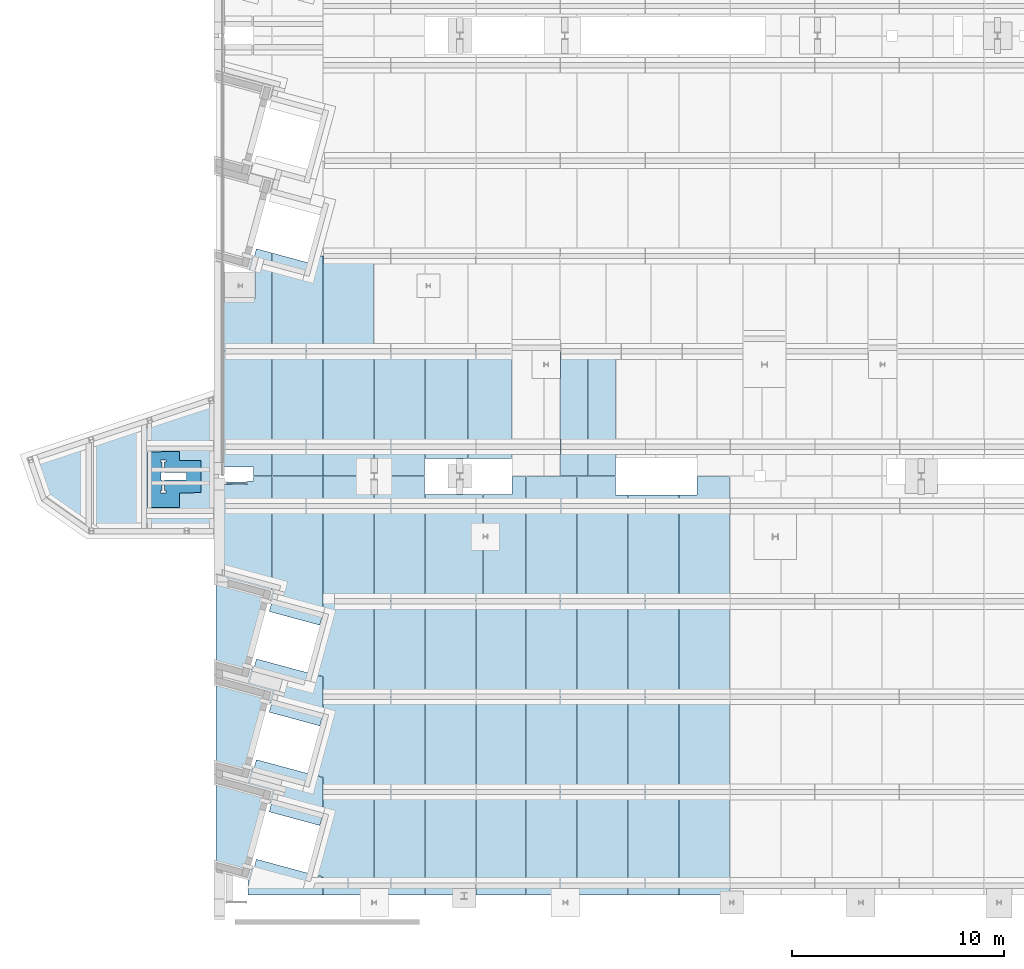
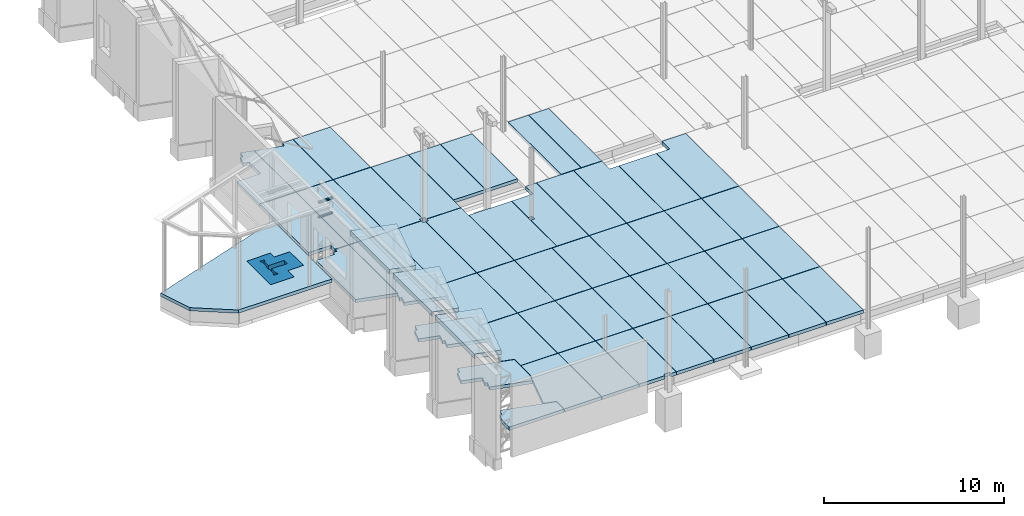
# One storey, part 46 of 59: 53 slabs, 2 beams.
"""IFC2X3 building model written with IfcOpenShell, lengths in metres."""

from ifc_helpers import new_model, entity, si_unit, converted_unit, derived_unit, frame, frame_2d, origin, origin_with_axes, place, context, subcontext, project, spatial, polyline, rectangle, outline, extrude, material, element, save


model = new_model("IFC2X3")

# Units and contexts
model_context = context("Model", 3, precision=1e-05, world=origin())
body_context = subcontext(model_context, "Body", "Model", "MODEL_VIEW")
ifc_project = project(units=[si_unit("LENGTHUNIT", "METRE"), si_unit("AREAUNIT", "SQUARE_METRE"), si_unit("VOLUMEUNIT", "CUBIC_METRE"), si_unit("MASSUNIT", "GRAM", prefix="KILO"), converted_unit("PLANEANGLEUNIT", "DEGREE", entity("IfcPlaneAngleMeasure", 0.0174532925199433), si_unit("PLANEANGLEUNIT", "RADIAN"), dimensions=[0, 0, 0, 0, 0, 0, 0]), derived_unit("THERMALTRANSMITTANCEUNIT", [(si_unit("POWERUNIT", "WATT"), 1), (si_unit("THERMODYNAMICTEMPERATUREUNIT", "KELVIN"), -1), (si_unit("LENGTHUNIT", "METRE"), -2)]), derived_unit("VOLUMETRICFLOWRATEUNIT", [(si_unit("LENGTHUNIT", "METRE"), 3), (converted_unit("TIMEUNIT", "hour", entity("IfcTimeMeasure", 3600.0), si_unit("TIMEUNIT", "SECOND"), dimensions=[0, 0, 1, 0, 0, 0, 0]), -1), (si_unit("LENGTHUNIT", "METRE"), -1)])], contexts=[model_context])

# Site, building, storey
site_placement = place(None, origin())
site = spatial("IfcSite", under=ifc_project, at=site_placement, Name="TWP_Speiseverteilzentrum SBW VZ II", CompositionType="ELEMENT")
building_placement = place(site_placement, origin())
building = spatial("IfcBuilding", under=site, at=building_placement, Name="Speiseverteilzentrum SBW VZ II", CompositionType="ELEMENT")
storey_placement = place(building_placement, frame((0.0, 0.0, 1.7307)))
storey = spatial("IfcBuildingStorey", under=building, at=storey_placement, Name="EG_Produktion_FFB", CompositionType="ELEMENT", Elevation=1.7307)

# Beams
ifc_material_1 = material(Name="S235")
beam_1_placement = place(storey_placement, frame((9.85000000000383, 30.4850010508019, 2.56), z_axis=(0.0, 0.0, 1.0), x_axis=(0.0, -1.0, 0.0)))
element("IfcBeam", 1, at=beam_1_placement, inside=storey, material=ifc_material_1, Name="Fachwerkstütze", context=body_context, shape_type="SweptSolid", body=[
    extrude(outline(polyline([(-0.05, 0.048), (-0.05, 0.04), (-0.0025, 0.04), (-0.00250000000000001, -0.0399999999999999), (-0.05, -0.0399999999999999), (-0.05, -0.048), (0.05, -0.048), (0.05, -0.0399999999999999), (0.00249999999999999, -0.0399999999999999), (0.0025, 0.04), (0.05, 0.04), (0.05, 0.048), (-0.05, 0.048)])), frame((0.0, 0.0, 0.0), z_axis=(0.0, 1.0, 0.0), x_axis=(-1.0, 0.0, 0.0)), (0.0, 0.0, 1.0), 0.9),
])
ifc_material_2 = material(Name="S235")
beam_2_placement = place(storey_placement, frame((9.85000000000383, 30.4850010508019, 3.56), z_axis=(0.0, 0.0, 1.0), x_axis=(0.0, -1.0, 0.0)))
element("IfcBeam", 2, at=beam_2_placement, inside=storey, material=ifc_material_2, Name="Fachwerkstütze", context=body_context, shape_type="SweptSolid", body=[
    extrude(outline(polyline([(-0.05, 0.048), (-0.05, 0.04), (-0.0025, 0.04), (-0.00250000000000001, -0.0399999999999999), (-0.05, -0.0399999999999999), (-0.05, -0.048), (0.05, -0.048), (0.05, -0.0399999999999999), (0.00249999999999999, -0.0399999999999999), (0.0025, 0.04), (0.05, 0.04), (0.05, 0.048), (-0.05, 0.048)])), frame((0.0, 0.0, 0.0), z_axis=(0.0, 1.0, 0.0), x_axis=(-1.0, 0.0, 0.0)), (0.0, 0.0, 1.0), 0.9),
])

# Slabs
ifc_material_3 = material(Name="Stahlbeton")
slab_1_placement = place(storey_placement, frame((9.33999999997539, 11.8686142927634, 4.2)))
element("IfcSlab", 3, at=slab_1_placement, inside=storey, material=ifc_material_3, Name="Stb.-Rahmen", PredefinedType="ROOF", context=body_context, shape_type="SweptSolid", body=[
    extrude(outline(polyline([(0.0, 4.75349654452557), (0.0, 0.403404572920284), (1.49195659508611, 0.0), (2.58802923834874, 4.05372898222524), (0.0, 4.75349654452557)])), origin_with_axes(), (0.0, 0.0, 1.0), 0.3),
])
ifc_material_4 = material(Name="Stahlbeton")
slab_2_placement = place(storey_placement, frame((9.33999999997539, 16.5711783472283, 4.2)))
element("IfcSlab", 4, at=slab_2_placement, inside=storey, material=ifc_material_4, Name="Stb.-Rahmen", PredefinedType="ROOF", context=body_context, shape_type="SweptSolid", body=[
    extrude(outline(polyline([(0.0, 4.75349654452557), (0.0, 0.403404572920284), (1.49195659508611, 0.0), (2.58802923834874, 4.05372898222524), (0.0, 4.75349654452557)])), origin_with_axes(), (0.0, 0.0, 1.0), 0.3),
])
ifc_material_5 = material(Name="Stahlbeton")
slab_3_placement = place(storey_placement, frame((9.33999999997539, 21.3227129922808, 4.2)))
element("IfcSlab", 5, at=slab_3_placement, inside=storey, material=ifc_material_5, Name="Stb.-Rahmen", PredefinedType="ROOF", context=body_context, shape_type="SweptSolid", body=[
    extrude(outline(polyline([(0.0, 4.75349654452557), (0.0, 0.403404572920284), (1.49195659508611, 0.0), (2.58802923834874, 4.05372898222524), (0.0, 4.75349654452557)])), origin_with_axes(), (0.0, 0.0, 1.0), 0.3),
])
ifc_material_6 = material(Name="Stahlbetonfertigteil")
slab_4_placement = place(storey_placement, frame((16.7999999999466, 15.9100000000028, -0.47)))
element("IfcSlab", 6, at=slab_4_placement, inside=storey, material=ifc_material_6, Name="Stahlbetonfertigteilplatte", PredefinedType="BASESLAB", context=body_context, shape_type="SweptSolid", body=[
    extrude(rectangle(XDim=4.47999999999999, YDim=2.38, at=frame_2d((1.19, -2.23999999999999), x_axis=(0.0, -1.0))), frame((0.0, 4.47999999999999, 0.0), z_axis=(0.0, 0.0, 1.0), x_axis=(1.0, 0.0, 0.0)), (0.0, 0.0, 1.0), 0.22),
])
ifc_material_7 = material(Name="Stahlbetonfertigteil")
slab_5_placement = place(storey_placement, frame((16.7999999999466, 20.4100000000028, -0.47)))
element("IfcSlab", 7, at=slab_5_placement, inside=storey, material=ifc_material_7, Name="Stahlbetonfertigteilplatte", PredefinedType="BASESLAB", context=body_context, shape_type="SweptSolid", body=[
    extrude(rectangle(XDim=4.47999999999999, YDim=2.38, at=frame_2d((1.19, -2.23999999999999), x_axis=(0.0, -1.0))), frame((0.0, 4.47999999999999, 0.0), z_axis=(0.0, 0.0, 1.0), x_axis=(1.0, 0.0, 0.0)), (0.0, 0.0, 1.0), 0.22),
])
ifc_material_8 = material(Name="Stahlbetonfertigteil")
slab_6_placement = place(storey_placement, frame((19.1999999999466, 15.9100000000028, -0.47)))
element("IfcSlab", 8, at=slab_6_placement, inside=storey, material=ifc_material_8, Name="Stahlbetonfertigteilplatte", PredefinedType="BASESLAB", context=body_context, shape_type="SweptSolid", body=[
    extrude(rectangle(XDim=4.47999999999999, YDim=2.38, at=frame_2d((1.19, -2.23999999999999), x_axis=(0.0, -1.0))), frame((0.0, 4.47999999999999, 0.0), z_axis=(0.0, 0.0, 1.0), x_axis=(1.0, 0.0, 0.0)), (0.0, 0.0, 1.0), 0.22),
])
ifc_material_9 = material(Name="Stahlbetonfertigteil")
slab_7_placement = place(storey_placement, frame((21.5999999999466, 15.9100000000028, -0.47)))
element("IfcSlab", 9, at=slab_7_placement, inside=storey, material=ifc_material_9, Name="Stahlbetonfertigteilplatte", PredefinedType="BASESLAB", context=body_context, shape_type="SweptSolid", body=[
    extrude(rectangle(XDim=4.47999999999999, YDim=2.38, at=frame_2d((1.19, -2.23999999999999), x_axis=(0.0, -1.0))), frame((0.0, 4.47999999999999, 0.0), z_axis=(0.0, 0.0, 1.0), x_axis=(1.0, 0.0, 0.0)), (0.0, 0.0, 1.0), 0.22),
])
ifc_material_10 = material(Name="Stahlbetonfertigteil")
slab_8_placement = place(storey_placement, frame((19.1999999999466, 20.4100000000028, -0.47)))
element("IfcSlab", 10, at=slab_8_placement, inside=storey, material=ifc_material_10, Name="Stahlbetonfertigteilplatte", PredefinedType="BASESLAB", context=body_context, shape_type="SweptSolid", body=[
    extrude(rectangle(XDim=4.47999999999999, YDim=2.38, at=frame_2d((1.19, -2.23999999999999), x_axis=(0.0, -1.0))), frame((0.0, 4.47999999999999, 0.0), z_axis=(0.0, 0.0, 1.0), x_axis=(1.0, 0.0, 0.0)), (0.0, 0.0, 1.0), 0.22),
])
ifc_material_11 = material(Name="Stahlbetonfertigteil")
slab_9_placement = place(storey_placement, frame((21.5999999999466, 20.4100000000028, -0.47)))
element("IfcSlab", 11, at=slab_9_placement, inside=storey, material=ifc_material_11, Name="Stahlbetonfertigteilplatte", PredefinedType="BASESLAB", context=body_context, shape_type="SweptSolid", body=[
    extrude(rectangle(XDim=4.47999999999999, YDim=2.38, at=frame_2d((1.19, -2.23999999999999), x_axis=(0.0, -1.0))), frame((0.0, 4.47999999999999, 0.0), z_axis=(0.0, 0.0, 1.0), x_axis=(1.0, 0.0, 0.0)), (0.0, 0.0, 1.0), 0.22),
])
ifc_material_12 = material(Name="Stahlbetonfertigteil")
slab_10_placement = place(storey_placement, frame((23.9999999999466, 15.9100000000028, -0.47)))
element("IfcSlab", 12, at=slab_10_placement, inside=storey, material=ifc_material_12, Name="Stahlbetonfertigteilplatte", PredefinedType="BASESLAB", context=body_context, shape_type="SweptSolid", body=[
    extrude(rectangle(XDim=4.47999999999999, YDim=2.38, at=frame_2d((1.19, -2.23999999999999), x_axis=(0.0, -1.0))), frame((0.0, 4.47999999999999, 0.0), z_axis=(0.0, 0.0, 1.0), x_axis=(1.0, 0.0, 0.0)), (0.0, 0.0, 1.0), 0.22),
])
ifc_material_13 = material(Name="Stahlbetonfertigteil")
slab_11_placement = place(storey_placement, frame((26.3999999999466, 15.9100000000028, -0.47)))
element("IfcSlab", 13, at=slab_11_placement, inside=storey, material=ifc_material_13, Name="Stahlbetonfertigteilplatte", PredefinedType="BASESLAB", context=body_context, shape_type="SweptSolid", body=[
    extrude(rectangle(XDim=4.47999999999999, YDim=2.38, at=frame_2d((1.19, -2.23999999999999), x_axis=(0.0, -1.0))), frame((0.0, 4.47999999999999, 0.0), z_axis=(0.0, 0.0, 1.0), x_axis=(1.0, 0.0, 0.0)), (0.0, 0.0, 1.0), 0.22),
])
ifc_material_14 = material(Name="Stahlbetonfertigteil")
slab_12_placement = place(storey_placement, frame((23.9999999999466, 20.4100000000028, -0.47)))
element("IfcSlab", 14, at=slab_12_placement, inside=storey, material=ifc_material_14, Name="Stahlbetonfertigteilplatte", PredefinedType="BASESLAB", context=body_context, shape_type="SweptSolid", body=[
    extrude(rectangle(XDim=4.47999999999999, YDim=2.38, at=frame_2d((1.19, -2.23999999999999), x_axis=(0.0, -1.0))), frame((0.0, 4.47999999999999, 0.0), z_axis=(0.0, 0.0, 1.0), x_axis=(1.0, 0.0, 0.0)), (0.0, 0.0, 1.0), 0.22),
])
ifc_material_15 = material(Name="Stahlbetonfertigteil")
slab_13_placement = place(storey_placement, frame((26.3999999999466, 20.4100000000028, -0.47)))
element("IfcSlab", 15, at=slab_13_placement, inside=storey, material=ifc_material_15, Name="Stahlbetonfertigteilplatte", PredefinedType="BASESLAB", context=body_context, shape_type="SweptSolid", body=[
    extrude(rectangle(XDim=4.47999999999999, YDim=2.38, at=frame_2d((1.19, -2.23999999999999), x_axis=(0.0, -1.0))), frame((0.0, 4.47999999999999, 0.0), z_axis=(0.0, 0.0, 1.0), x_axis=(1.0, 0.0, 0.0)), (0.0, 0.0, 1.0), 0.22),
])
ifc_material_16 = material(Name="Stahlbetonfertigteil")
slab_14_placement = place(storey_placement, frame((28.7999999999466, 15.9100000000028, -0.47)))
element("IfcSlab", 16, at=slab_14_placement, inside=storey, material=ifc_material_16, Name="Stahlbetonfertigteilplatte", PredefinedType="BASESLAB", context=body_context, shape_type="SweptSolid", body=[
    extrude(rectangle(XDim=4.47999999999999, YDim=2.38, at=frame_2d((1.19, -2.23999999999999), x_axis=(0.0, -1.0))), frame((0.0, 4.47999999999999, 0.0), z_axis=(0.0, 0.0, 1.0), x_axis=(1.0, 0.0, 0.0)), (0.0, 0.0, 1.0), 0.22),
])
ifc_material_17 = material(Name="Stahlbetonfertigteil")
slab_15_placement = place(storey_placement, frame((31.1999999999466, 15.9100000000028, -0.47)))
element("IfcSlab", 17, at=slab_15_placement, inside=storey, material=ifc_material_17, Name="Stahlbetonfertigteilplatte", PredefinedType="BASESLAB", context=body_context, shape_type="SweptSolid", body=[
    extrude(rectangle(XDim=4.47999999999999, YDim=2.38, at=frame_2d((1.19, -2.23999999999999), x_axis=(0.0, -1.0))), frame((0.0, 4.47999999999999, 0.0), z_axis=(0.0, 0.0, 1.0), x_axis=(1.0, 0.0, 0.0)), (0.0, 0.0, 1.0), 0.22),
])
ifc_material_18 = material(Name="Stahlbetonfertigteil")
slab_16_placement = place(storey_placement, frame((28.7999999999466, 20.4100000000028, -0.47)))
element("IfcSlab", 18, at=slab_16_placement, inside=storey, material=ifc_material_18, Name="Stahlbetonfertigteilplatte", PredefinedType="BASESLAB", context=body_context, shape_type="SweptSolid", body=[
    extrude(rectangle(XDim=4.47999999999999, YDim=2.38, at=frame_2d((1.19, -2.23999999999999), x_axis=(0.0, -1.0))), frame((0.0, 4.47999999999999, 0.0), z_axis=(0.0, 0.0, 1.0), x_axis=(1.0, 0.0, 0.0)), (0.0, 0.0, 1.0), 0.22),
])
ifc_material_19 = material(Name="Stahlbetonfertigteil")
slab_17_placement = place(storey_placement, frame((31.1999999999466, 20.4100000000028, -0.47)))
element("IfcSlab", 19, at=slab_17_placement, inside=storey, material=ifc_material_19, Name="Stahlbetonfertigteilplatte", PredefinedType="BASESLAB", context=body_context, shape_type="SweptSolid", body=[
    extrude(rectangle(XDim=4.47999999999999, YDim=2.38, at=frame_2d((1.19, -2.23999999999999), x_axis=(0.0, -1.0))), frame((0.0, 4.47999999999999, 0.0), z_axis=(0.0, 0.0, 1.0), x_axis=(1.0, 0.0, 0.0)), (0.0, 0.0, 1.0), 0.22),
])
ifc_material_20 = material(Name="Stahlbetonfertigteil")
slab_18_placement = place(storey_placement, frame((14.3999999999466, 36.7100000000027, -0.47)))
element("IfcSlab", 20, at=slab_18_placement, inside=storey, material=ifc_material_20, Name="Stahlbetonfertigteilplatte", PredefinedType="BASESLAB", context=body_context, shape_type="SweptSolid", body=[
    extrude(rectangle(XDim=4.47999999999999, YDim=2.38, at=frame_2d((1.19, -2.23999999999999), x_axis=(0.0, -1.0))), frame((0.0, 4.47999999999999, 0.0), z_axis=(0.0, 0.0, 1.0), x_axis=(1.0, 0.0, 0.0)), (0.0, 0.0, 1.0), 0.22),
])
ifc_material_21 = material(Name="Stahlbetonfertigteil")
slab_19_placement = place(storey_placement, frame((11.9999999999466, 36.7100000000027, -0.47)))
element("IfcSlab", 21, at=slab_19_placement, inside=storey, material=ifc_material_21, Name="Stahlbetonfertigteilplatte", PredefinedType="BASESLAB", context=body_context, shape_type="SweptSolid", body=[
    extrude(outline(polyline([(2.38, 4.47999999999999), (1.73572350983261, 4.47999999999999), (1.65475410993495, 4.18054174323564), (0.0, 4.62796452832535), (0.0, 0.0), (2.38, 0.0), (2.38, 4.47999999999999)])), origin_with_axes(), (0.0, 0.0, 1.0), 0.22),
])
ifc_material_22 = material(Name="Stahlbetonfertigteil")
slab_20_placement = place(storey_placement, frame((16.7999999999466, 24.9100000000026, -0.47)))
element("IfcSlab", 22, at=slab_20_placement, inside=storey, material=ifc_material_22, Name="Stahlbetonfertigteilplatte", PredefinedType="BASESLAB", context=body_context, shape_type="SweptSolid", body=[
    extrude(outline(polyline([(0.182375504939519, 5.7051031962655), (0.0, 5.7051031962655), (0.0, 0.0), (2.38, 0.0), (2.38, 5.87999999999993), (0.182375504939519, 5.87999999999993), (0.182375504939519, 5.7051031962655)])), origin_with_axes(), (0.0, 0.0, 1.0), 0.22),
])
ifc_material_23 = material(Name="Stahlbetonfertigteil")
slab_21_placement = place(storey_placement, frame((16.7999999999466, 30.8100000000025, -0.47)))
element("IfcSlab", 23, at=slab_21_placement, inside=storey, material=ifc_material_23, Name="Stahlbetonfertigteilplatte", PredefinedType="BASESLAB", context=body_context, shape_type="SweptSolid", body=[
    extrude(outline(polyline([(2.38, 0.0), (2.38, 5.87999999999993), (0.0, 5.87999999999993), (0.0, 0.175103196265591), (0.182375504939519, 0.175103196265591), (0.182375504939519, 0.0), (2.38, 0.0)])), origin_with_axes(), (0.0, 0.0, 1.0), 0.22),
])
ifc_material_24 = material(Name="Stahlbetonfertigteil")
slab_22_placement = place(storey_placement, frame((14.3999999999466, 30.8100000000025, -0.47)))
element("IfcSlab", 24, at=slab_22_placement, inside=storey, material=ifc_material_24, Name="Stahlbetonfertigteilplatte", PredefinedType="BASESLAB", context=body_context, shape_type="SweptSolid", body=[
    extrude(outline(polyline([(2.38, 0.175103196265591), (2.38, 5.87999999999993), (0.0, 5.87999999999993), (0.0, 0.0), (2.22237550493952, 0.0), (2.22237550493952, 0.175103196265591), (2.38, 0.175103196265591)])), origin_with_axes(), (0.0, 0.0, 1.0), 0.22),
])
ifc_material_25 = material(Name="Stahlbetonfertigteil")
slab_23_placement = place(storey_placement, frame((11.9999999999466, 30.8100000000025, -0.47)))
element("IfcSlab", 25, at=slab_23_placement, inside=storey, material=ifc_material_25, Name="Stahlbetonfertigteilplatte", PredefinedType="BASESLAB", context=body_context, shape_type="SweptSolid", body=[
    extrude(rectangle(XDim=5.87999999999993, YDim=2.38, at=frame_2d((1.19, -2.93999999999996), x_axis=(0.0, -1.0))), frame((0.0, 5.87999999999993, 0.0), z_axis=(0.0, 0.0, 1.0), x_axis=(1.0, 0.0, 0.0)), (0.0, 0.0, 1.0), 0.22),
])
ifc_material_26 = material(Name="Stahlbetonfertigteil")
slab_24_placement = place(storey_placement, frame((31.1999999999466, 24.9100000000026, -0.47)))
element("IfcSlab", 26, at=slab_24_placement, inside=storey, material=ifc_material_26, Name="Stahlbetonfertigteilplatte", PredefinedType="BASESLAB", context=body_context, shape_type="SweptSolid", body=[
    extrude(outline(polyline([(0.0, 5.0172526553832), (0.0, 0.0), (2.38, 0.0), (2.38, 5.87999999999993), (0.850000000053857, 5.87999999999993), (0.850000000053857, 5.0172526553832), (0.0, 5.0172526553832)])), origin_with_axes(), (0.0, 0.0, 1.0), 0.22),
])
ifc_material_27 = material(Name="Stahlbetonfertigteil")
slab_25_placement = place(storey_placement, frame((28.7999999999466, 24.9100000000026, -0.47)))
element("IfcSlab", 27, at=slab_25_placement, inside=storey, material=ifc_material_27, Name="Stahlbetonfertigteilplatte", PredefinedType="BASESLAB", context=body_context, shape_type="SweptSolid", body=[
    extrude(rectangle(XDim=2.38, YDim=5.0172526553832, at=frame_2d((-1.19, -2.5086263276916), x_axis=(-1.0, 0.0))), frame((2.38, 5.0172526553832, 0.0), z_axis=(0.0, 0.0, 1.0), x_axis=(1.0, 0.0, 0.0)), (0.0, 0.0, 1.0), 0.22),
])
ifc_material_28 = material(Name="Stahlbetonfertigteil")
slab_26_placement = place(storey_placement, frame((26.3999999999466, 24.9100000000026, -0.47)))
element("IfcSlab", 28, at=slab_26_placement, inside=storey, material=ifc_material_28, Name="Stahlbetonfertigteilplatte", PredefinedType="BASESLAB", context=body_context, shape_type="SweptSolid", body=[
    extrude(outline(polyline([(2.38, 0.0), (2.38, 5.01725265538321), (1.8000000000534, 5.01725265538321), (1.8000000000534, 5.87999999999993), (0.0, 5.87999999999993), (0.0, 0.0), (2.38, 0.0)])), origin_with_axes(), (0.0, 0.0, 1.0), 0.22),
])
ifc_material_29 = material(Name="Stahlbetonfertigteil")
slab_27_placement = place(storey_placement, frame((23.9999999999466, 24.9100000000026, -0.47)))
element("IfcSlab", 29, at=slab_27_placement, inside=storey, material=ifc_material_29, Name="Stahlbetonfertigteilplatte", PredefinedType="BASESLAB", context=body_context, shape_type="SweptSolid", body=[
    extrude(rectangle(XDim=5.87999999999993, YDim=2.38, at=frame_2d((1.19, -2.93999999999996), x_axis=(0.0, -1.0))), frame((0.0, 5.87999999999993, 0.0), z_axis=(0.0, 0.0, 1.0), x_axis=(1.0, 0.0, 0.0)), (0.0, 0.0, 1.0), 0.22),
])
ifc_material_30 = material(Name="Stahlbetonfertigteil")
slab_28_placement = place(storey_placement, frame((31.1999999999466, 11.0500000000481, -0.47)))
element("IfcSlab", 30, at=slab_28_placement, inside=storey, material=ifc_material_30, Name="Stahlbetonfertigteilplatte", PredefinedType="BASESLAB", context=body_context, shape_type="SweptSolid", body=[
    extrude(rectangle(XDim=4.83999999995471, YDim=2.38, at=frame_2d((1.19, -2.41999999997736), x_axis=(0.0, -1.0))), frame((0.0, 4.83999999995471, 0.0), z_axis=(0.0, 0.0, 1.0), x_axis=(1.0, 0.0, 0.0)), (0.0, 0.0, 1.0), 0.22),
])
ifc_material_31 = material(Name="Stahlbetonfertigteil")
slab_29_placement = place(storey_placement, frame((28.7999999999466, 11.0500000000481, -0.47)))
element("IfcSlab", 31, at=slab_29_placement, inside=storey, material=ifc_material_31, Name="Stahlbetonfertigteilplatte", PredefinedType="BASESLAB", context=body_context, shape_type="SweptSolid", body=[
    extrude(rectangle(XDim=4.83999999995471, YDim=2.38, at=frame_2d((1.19, -2.41999999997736), x_axis=(0.0, -1.0))), frame((0.0, 4.83999999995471, 0.0), z_axis=(0.0, 0.0, 1.0), x_axis=(1.0, 0.0, 0.0)), (0.0, 0.0, 1.0), 0.22),
])
ifc_material_32 = material(Name="Stahlbetonfertigteil")
slab_30_placement = place(storey_placement, frame((26.3999999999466, 11.0500000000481, -0.47)))
element("IfcSlab", 32, at=slab_30_placement, inside=storey, material=ifc_material_32, Name="Stahlbetonfertigteilplatte", PredefinedType="BASESLAB", context=body_context, shape_type="SweptSolid", body=[
    extrude(rectangle(XDim=4.83999999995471, YDim=2.38, at=frame_2d((1.19, -2.41999999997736), x_axis=(0.0, -1.0))), frame((0.0, 4.83999999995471, 0.0), z_axis=(0.0, 0.0, 1.0), x_axis=(1.0, 0.0, 0.0)), (0.0, 0.0, 1.0), 0.22),
])
ifc_material_33 = material(Name="Stahlbetonfertigteil")
slab_31_placement = place(storey_placement, frame((23.9999999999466, 11.0500000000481, -0.47)))
element("IfcSlab", 33, at=slab_31_placement, inside=storey, material=ifc_material_33, Name="Stahlbetonfertigteilplatte", PredefinedType="BASESLAB", context=body_context, shape_type="SweptSolid", body=[
    extrude(rectangle(XDim=4.83999999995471, YDim=2.38, at=frame_2d((1.19, -2.41999999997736), x_axis=(0.0, -1.0))), frame((0.0, 4.83999999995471, 0.0), z_axis=(0.0, 0.0, 1.0), x_axis=(1.0, 0.0, 0.0)), (0.0, 0.0, 1.0), 0.22),
])
ifc_material_34 = material(Name="Stahlbetonfertigteil")
slab_32_placement = place(storey_placement, frame((21.5999999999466, 11.0500000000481, -0.47)))
element("IfcSlab", 34, at=slab_32_placement, inside=storey, material=ifc_material_34, Name="Stahlbetonfertigteilplatte", PredefinedType="BASESLAB", context=body_context, shape_type="SweptSolid", body=[
    extrude(rectangle(XDim=4.83999999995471, YDim=2.38, at=frame_2d((1.19, -2.41999999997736), x_axis=(0.0, -1.0))), frame((0.0, 4.83999999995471, 0.0), z_axis=(0.0, 0.0, 1.0), x_axis=(1.0, 0.0, 0.0)), (0.0, 0.0, 1.0), 0.22),
])
ifc_material_35 = material(Name="Stahlbetonfertigteil")
slab_33_placement = place(storey_placement, frame((16.7999999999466, 11.0500000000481, -0.47)))
element("IfcSlab", 35, at=slab_33_placement, inside=storey, material=ifc_material_35, Name="Stahlbetonfertigteilplatte", PredefinedType="BASESLAB", context=body_context, shape_type="SweptSolid", body=[
    extrude(rectangle(XDim=4.83999999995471, YDim=2.38, at=frame_2d((1.19, -2.41999999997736), x_axis=(0.0, -1.0))), frame((0.0, 4.83999999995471, 0.0), z_axis=(0.0, 0.0, 1.0), x_axis=(1.0, 0.0, 0.0)), (0.0, 0.0, 1.0), 0.22),
])
ifc_material_36 = material(Name="Stahlbetonfertigteil")
slab_34_placement = place(storey_placement, frame((19.1999999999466, 11.0500000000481, -0.47)))
element("IfcSlab", 36, at=slab_34_placement, inside=storey, material=ifc_material_36, Name="Stahlbetonfertigteilplatte", PredefinedType="BASESLAB", context=body_context, shape_type="SweptSolid", body=[
    extrude(outline(polyline([(0.0, 0.0), (1.67000000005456, 0.0), (1.67000000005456, 0.140148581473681), (2.03000000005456, 0.140148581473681), (2.03000000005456, 0.0), (2.38, 0.0), (2.38, 4.83999999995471), (0.0, 4.83999999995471), (0.0, 0.0)])), origin_with_axes(), (0.0, 0.0, 1.0), 0.22),
])
ifc_material_37 = material(Name="Stahlbetonfertigteil")
slab_35_placement = place(storey_placement, frame((26.9099999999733, 30.8100000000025, -0.47)))
element("IfcSlab", 37, at=slab_35_placement, inside=storey, material=ifc_material_37, Name="Stahlbetonfertigteilplatte", PredefinedType="BASESLAB", context=body_context, shape_type="SweptSolid", body=[
    extrude(rectangle(XDim=5.87999999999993, YDim=1.29000000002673, at=frame_2d((-0.645000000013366, 2.93999999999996), x_axis=(0.0, 1.0))), frame((1.29000000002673, 0.0, 0.0), z_axis=(0.0, 0.0, 1.0), x_axis=(1.0, 0.0, 0.0)), (0.0, 0.0, 1.0), 0.22),
])
ifc_material_38 = material(Name="Stahlbetonfertigteil")
slab_36_placement = place(storey_placement, frame((25.5999999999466, 30.8100000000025, -0.47)))
element("IfcSlab", 38, at=slab_36_placement, inside=storey, material=ifc_material_38, Name="Stahlbetonfertigteilplatte", PredefinedType="BASESLAB", context=body_context, shape_type="SweptSolid", body=[
    extrude(rectangle(XDim=1.29000000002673, YDim=5.87999999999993, at=frame_2d((0.645000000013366, 2.93999999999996), x_axis=(1.0, 0.0))), origin_with_axes(), (0.0, 0.0, 1.0), 0.22),
])
ifc_material_39 = material(Name="Stahlbetonfertigteil")
slab_37_placement = place(storey_placement, frame((21.9350000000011, 24.9100000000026, -0.47)))
element("IfcSlab", 39, at=slab_37_placement, inside=storey, material=ifc_material_39, Name="Stahlbetonfertigteilplatte", PredefinedType="BASESLAB", context=body_context, shape_type="SweptSolid", body=[
    extrude(outline(polyline([(2.0449999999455, 0.0), (2.0449999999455, 5.87999999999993), (1.36618773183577, 5.87999999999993), (1.36618773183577, 5.04225265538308), (0.0, 5.04225265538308), (0.0, 3.18992869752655), (0.25, 3.18992869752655), (0.25, 2.90992869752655), (0.0, 2.90992869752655), (0.0, 0.0), (2.0449999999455, 0.0)])), origin_with_axes(), (0.0, 0.0, 1.0), 0.22),
])
ifc_material_40 = material(Name="Stahlbetonfertigteil")
slab_38_placement = place(storey_placement, frame((19.1999999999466, 24.9100000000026, -0.47)))
element("IfcSlab", 40, at=slab_38_placement, inside=storey, material=ifc_material_40, Name="Stahlbetonfertigteilplatte", PredefinedType="BASESLAB", context=body_context, shape_type="SweptSolid", body=[
    extrude(rectangle(XDim=2.7150000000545, YDim=5.04225265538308, at=frame_2d((-1.35750000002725, -2.52112632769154), x_axis=(-1.0, 0.0))), frame((2.7150000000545, 5.04225265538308, 0.0), z_axis=(0.0, 0.0, 1.0), x_axis=(1.0, 0.0, 0.0)), (0.0, 0.0, 1.0), 0.22),
])
ifc_material_41 = material(Name="Stahlbetonfertigteil")
slab_39_placement = place(storey_placement, frame((14.3999999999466, 24.9100000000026, -0.47)))
element("IfcSlab", 41, at=slab_39_placement, inside=storey, material=ifc_material_41, Name="Stahlbetonfertigteilplatte", PredefinedType="BASESLAB", context=body_context, shape_type="SweptSolid", body=[
    extrude(outline(polyline([(0.0, 0.0), (2.38, 0.0), (2.38, 5.7051031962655), (2.22237550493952, 5.7051031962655), (2.22237550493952, 5.87999999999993), (0.0, 5.87999999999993), (0.0, 0.0)])), origin_with_axes(), (0.0, 0.0, 1.0), 0.22),
])
ifc_material_42 = material(Name="Stahlbetonfertigteil")
slab_40_placement = place(storey_placement, frame((9.65999999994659, 25.3934670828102, -0.47)))
element("IfcSlab", 42, at=slab_40_placement, inside=storey, material=ifc_material_42, Name="Stahlbetonfertigteilplatte", PredefinedType="BASESLAB", context=body_context, shape_type="SweptSolid", body=[
    extrude(outline(polyline([(0.0, 0.627296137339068), (2.32, 0.0), (2.32, 5.39653291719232), (1.44012851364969, 5.39653291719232), (1.44012851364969, 5.19829902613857), (1.17000000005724, 5.19829902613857), (1.17000000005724, 5.01153396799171), (0.0, 5.01153396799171), (0.0, 0.627296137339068)])), origin_with_axes(), (0.0, 0.0, 1.0), 0.22),
])
ifc_material_43 = material(Name="Stahlbetonfertigteil")
slab_41_placement = place(storey_placement, frame((9.65999999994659, 30.8100000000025, -0.47)))
element("IfcSlab", 43, at=slab_41_placement, inside=storey, material=ifc_material_43, Name="Stahlbetonfertigteilplatte", PredefinedType="BASESLAB", context=body_context, shape_type="SweptSolid", body=[
    extrude(outline(polyline([(0.0, 5.87999999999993), (0.0, 0.440000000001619), (1.44012851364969, 0.440000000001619), (1.44012851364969, 0.0), (2.32, 0.0), (2.32, 5.87999999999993), (0.0, 5.87999999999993)])), origin_with_axes(), (0.0, 0.0, 1.0), 0.22),
])
ifc_material_44 = material(Name="Stahlbetonfertigteil")
slab_42_placement = place(storey_placement, frame((21.2505938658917, 31.6522526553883, -0.47)))
element("IfcSlab", 44, at=slab_42_placement, inside=storey, material=ifc_material_44, Name="Stahlbetonfertigteilplatte", PredefinedType="BASESLAB", context=body_context, shape_type="SweptSolid", body=[
    extrude(rectangle(XDim=5.03774734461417, YDim=2.03059386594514, at=frame_2d((-1.01529693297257, 2.51887367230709), x_axis=(0.0, 1.0))), frame((2.03059386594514, 0.0, 0.0), z_axis=(0.0, 0.0, 1.0), x_axis=(1.0, 0.0, 0.0)), (0.0, 0.0, 1.0), 0.22),
])
ifc_material_45 = material(Name="Stahlbetonfertigteil")
slab_43_placement = place(storey_placement, frame((19.1999999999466, 31.6522526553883, -0.47)))
element("IfcSlab", 45, at=slab_43_placement, inside=storey, material=ifc_material_45, Name="Stahlbetonfertigteilplatte", PredefinedType="BASESLAB", context=body_context, shape_type="SweptSolid", body=[
    extrude(rectangle(XDim=2.03059386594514, YDim=5.03774734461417, at=frame_2d((-1.01529693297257, -2.51887367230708), x_axis=(-1.0, 0.0))), frame((2.03059386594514, 5.03774734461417, 0.0), z_axis=(0.0, 0.0, 1.0), x_axis=(1.0, 0.0, 0.0)), (0.0, 0.0, 1.0), 0.22),
])
ifc_material_46 = material(Name="Stahlbetonfertigteil")
slab_44_placement = place(storey_placement, frame((9.65999999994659, 36.7100000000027, -0.47)))
element("IfcSlab", 46, at=slab_44_placement, inside=storey, material=ifc_material_46, Name="Stahlbetonfertigteilplatte", PredefinedType="BASESLAB", context=body_context, shape_type="SweptSolid", body=[
    extrude(outline(polyline([(1.33142333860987, 4.44486957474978), (1.17481531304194, 3.86566846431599), (1.53485222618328, 3.76831942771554), (1.53485222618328, 2.5098118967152), (0.0, 2.5098118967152), (0.0, 0.0), (2.32, 0.0), (2.32, 4.63337225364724), (1.58624282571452, 4.83177011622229), (1.47139694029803, 4.40702263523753), (1.33142333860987, 4.44486957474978)])), origin_with_axes(), (0.0, 0.0, 1.0), 0.22),
])
ifc_material_47 = material(Name="Stahlbetonfertigteil")
slab_45_placement = place(storey_placement, frame((11.8329870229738, 23.7773414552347, -0.47)))
element("IfcSlab", 47, at=slab_45_placement, inside=storey, material=ifc_material_47, Name="Stahlbetonfertigteilplatte", PredefinedType="BASESLAB", context=body_context, shape_type="SweptSolid", body=[
    extrude(outline(polyline([(2.54701297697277, 7.01265854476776), (0.167012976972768, 7.01265854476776), (0.167012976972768, 1.57964061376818), (0.120857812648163, 1.57964061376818), (0.0, 1.13265854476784), (0.150206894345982, 1.13265854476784), (0.0186232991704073, 0.64600810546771), (2.40782787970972, 0.0), (2.54701297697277, 0.514763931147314), (2.54701297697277, 7.01265854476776)])), origin_with_axes(), (0.0, 0.0, 1.0), 0.22),
])
ifc_material_48 = material(Name="Stahlbetonfertigteil")
slab_46_placement = place(storey_placement, frame((13.6599743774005, 20.4100000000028, -0.47)))
element("IfcSlab", 48, at=slab_46_placement, inside=storey, material=ifc_material_48, Name="Stahlbetonfertigteilplatte", PredefinedType="BASESLAB", context=body_context, shape_type="SweptSolid", body=[
    extrude(outline(polyline([(0.740025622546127, 4.47999999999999), (0.740025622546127, 3.87944921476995), (0.0, 1.1425290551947), (0.740025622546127, 0.942436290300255), (0.740025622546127, 0.0), (3.12002562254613, 0.0), (3.12002562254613, 4.47999999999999), (0.740025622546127, 4.47999999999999)])), origin_with_axes(), (0.0, 0.0, 1.0), 0.22),
])
ifc_material_49 = material(Name="Stahlbetonfertigteil")
slab_47_placement = place(storey_placement, frame((10.7675973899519, 19.0258068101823, -0.47)))
element("IfcSlab", 49, at=slab_47_placement, inside=storey, material=ifc_material_49, Name="Stahlbetonfertigteilplatte", PredefinedType="BASESLAB", context=body_context, shape_type="SweptSolid", body=[
    extrude(outline(polyline([(3.61240260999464, 2.31131901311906), (0.478645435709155, 3.15864391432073), (0.363799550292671, 2.73389643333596), (0.22382594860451, 2.77174337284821), (0.0, 1.94394264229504), (1.19722230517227, 1.62023017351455), (1.0588852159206, 1.10860252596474), (1.19885881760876, 1.07075558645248), (1.08401293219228, 0.646008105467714), (3.47321751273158, 0.0), (3.61240260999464, 0.514763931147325), (3.61240260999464, 2.31131901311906)])), origin_with_axes(), (0.0, 0.0, 1.0), 0.22),
])
ifc_material_50 = material(Name="Stahlbetonfertigteil")
slab_48_placement = place(storey_placement, frame((10.7799356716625, 14.3232427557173, -0.47)))
element("IfcSlab", 50, at=slab_48_placement, inside=storey, material=ifc_material_50, Name="Stahlbetonfertigteilplatte", PredefinedType="BASESLAB", context=body_context, shape_type="SweptSolid", body=[
    extrude(outline(polyline([(3.46087923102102, 0.0), (3.60006432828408, 0.514763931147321), (3.60006432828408, 2.26234842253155), (2.87481843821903, 2.45844495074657), (0.465691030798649, 3.10739464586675), (0.35146126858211, 2.68492584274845), (0.211487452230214, 2.72277284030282), (0.0, 1.9406065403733), (1.18488402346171, 1.62023017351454), (1.04654693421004, 1.10860252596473), (1.1865205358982, 1.07075558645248), (1.07167465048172, 0.646008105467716), (3.46087923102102, 0.0)])), origin_with_axes(), (0.0, 0.0, 1.0), 0.22),
])
ifc_material_51 = material(Name="Stahlbetonfertigteil")
slab_49_placement = place(storey_placement, frame((13.6599743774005, 15.9100000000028, -0.47)))
element("IfcSlab", 51, at=slab_49_placement, inside=storey, material=ifc_material_51, Name="Stahlbetonfertigteilplatte", PredefinedType="BASESLAB", context=body_context, shape_type="SweptSolid", body=[
    extrude(outline(polyline([(0.740025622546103, 4.47999999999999), (0.740025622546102, 3.6279145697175), (0.0, 0.890994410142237), (0.740025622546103, 0.690901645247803), (0.740025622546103, 0.0), (3.1200256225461, 0.0), (3.1200256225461, 4.47999999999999), (0.740025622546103, 4.47999999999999)])), origin_with_axes(), (0.0, 0.0, 1.0), 0.22),
])
ifc_material_52 = material(Name="Stahlbetonfertigteil")
slab_50_placement = place(storey_placement, frame((13.6599743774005, 11.0500000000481, -0.47)))
element("IfcSlab", 52, at=slab_50_placement, inside=storey, material=ifc_material_52, Name="Stahlbetonfertigteilplatte", PredefinedType="BASESLAB", context=body_context, shape_type="SweptSolid", body=[
    extrude(outline(polyline([(0.740025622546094, 4.83999999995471), (0.740025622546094, 3.78535051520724), (0.0, 1.04843035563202), (0.740025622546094, 0.848337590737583), (0.740025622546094, 0.0), (3.12002562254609, 0.0), (3.12002562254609, 4.83999999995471), (0.740025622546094, 4.83999999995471)])), origin_with_axes(), (0.0, 0.0, 1.0), 0.22),
])
ifc_material_53 = material(Name="Stahlbetonfertigteil")
slab_51_placement = place(storey_placement, frame((10.8526921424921, 11.0500000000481, -0.47)))
element("IfcSlab", 53, at=slab_51_placement, inside=storey, material=ifc_material_53, Name="Stahlbetonfertigteilplatte", PredefinedType="BASESLAB", context=body_context, shape_type="SweptSolid", body=[
    extrude(outline(polyline([(0.138731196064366, 1.29345148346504), (0.0, 0.780366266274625), (0.0, 0.0), (3.52730785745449, 0.0), (3.52730785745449, 0.833027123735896), (0.393550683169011, 1.68035202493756), (0.278704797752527, 1.25560454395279), (0.138731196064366, 1.29345148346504)])), origin_with_axes(), (0.0, 0.0, 1.0), 0.22),
])
ifc_material_54 = material(Name="Stahlbeton")
slab_52_placement = place(storey_placement, frame((6.09818874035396, 29.323544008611, -0.6707)))
element("IfcSlab", 54, at=slab_52_placement, inside=storey, material=ifc_material_54, Name="Stb.-Bodenplatte", PredefinedType="BASESLAB", context=body_context, shape_type="SweptSolid", body=[
    extrude(outline(polyline([(1.51792638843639, 0.000679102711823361), (1.52776952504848, 0.694010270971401), (1.84975290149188, 0.6984936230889), (1.84975544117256, 0.698493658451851), (2.52822089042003, 0.707940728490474), (2.52440490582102, 2.21490536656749), (1.84975521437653, 2.22034439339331), (1.84974803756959, 2.22034445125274), (1.52522769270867, 2.22296073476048), (1.52546338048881, 2.64299042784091), (0.0135722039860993, 2.63527284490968), (0.0, 0.0), (1.51792638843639, 0.000679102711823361)]), holes=[polyline([(0.702684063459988, 2.1443849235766), (0.627684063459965, 2.1443849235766), (0.627684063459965, 2.25852705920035), (0.891826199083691, 2.25852705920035), (0.891826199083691, 2.1443849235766), (0.816826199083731, 2.1443849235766), (0.816826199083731, 1.65145599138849), (1.84974985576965, 1.65145599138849), (1.84975097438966, 1.30145599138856), (0.816826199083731, 1.30145599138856), (0.816826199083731, 0.808527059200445), (0.89182619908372, 0.808527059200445), (0.89182619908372, 0.694384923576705), (0.627684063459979, 0.694384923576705), (0.627684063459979, 0.808527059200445), (0.702684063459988, 0.808527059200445), (0.702684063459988, 1.30145599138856), (0.64975513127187, 1.30145599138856), (0.64975513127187, 1.65145599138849), (0.702684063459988, 1.65145599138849), (0.702684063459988, 2.1443849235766)])]), origin_with_axes(), (0.0, 0.0, 1.0), 0.670699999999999),
])
ifc_material_55 = material(Name="Stahlbeton")
slab_53_placement = place(storey_placement, frame((0.409933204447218, 28.0899999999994, -0.22)))
element("IfcSlab", 55, at=slab_53_placement, inside=storey, material=ifc_material_55, Name="Stb.-Bodenplatte", PredefinedType="BASESLAB", context=body_context, shape_type="SweptSolid", body=[
    extrude(outline(polyline([(2.92077197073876, 0.0), (8.92106679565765, 0.0), (8.92106679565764, 6.53681390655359), (0.0, 3.57884911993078), (0.703582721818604, 1.55119998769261), (2.92077197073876, 0.0)]), holes=[polyline([(7.21348322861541, 3.45650474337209), (8.21266044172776, 3.44844937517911), (8.21647642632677, 1.94148473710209), (7.21602506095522, 1.92755427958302), (7.20618192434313, 1.23422311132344), (5.68825553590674, 1.23354400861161), (5.70182773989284, 3.86881685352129), (7.21371891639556, 3.87653443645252), (7.21348322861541, 3.45650474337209)])]), origin_with_axes(), (0.0, 0.0, 1.0), 0.22),
])

save(model, "model.ifc")
